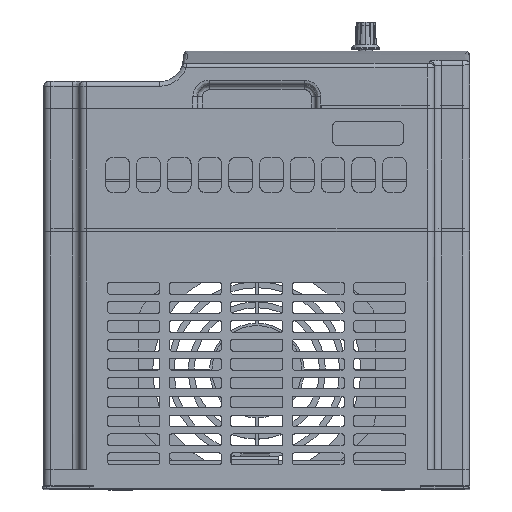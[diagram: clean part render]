
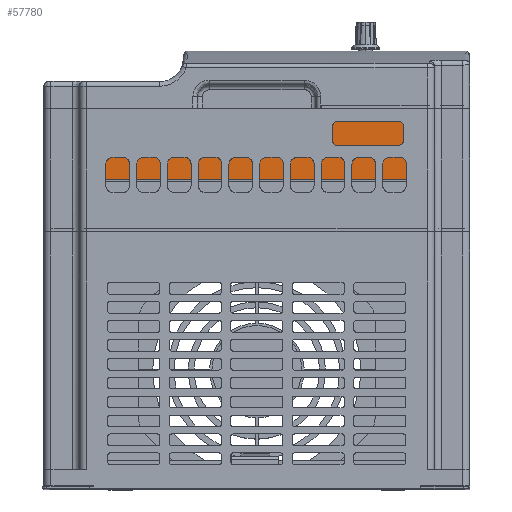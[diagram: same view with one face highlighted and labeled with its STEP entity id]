
A CAD part, top view. The second image highlights one B-rep face of the part: STEP entity #57780.
In plain terms, the highlighted planar face has unit normal (0, 0, 1) as drawn and (0, -1, 0) by its records, which use the part's own axes.
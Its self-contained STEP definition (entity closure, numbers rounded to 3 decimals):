
#286 = LINE ( 'NONE', #73441, #30852 ) ;
#2804 = LINE ( 'NONE', #48357, #51121 ) ;
#4620 = VERTEX_POINT ( 'NONE', #125846 ) ;
#6882 = CARTESIAN_POINT ( 'NONE',  ( -87.7, -93., -35. ) ) ;
#7943 = CARTESIAN_POINT ( 'NONE',  ( 67.7, -93., 0. ) ) ;
#8355 = VERTEX_POINT ( 'NONE', #114458 ) ;
#9711 = EDGE_CURVE ( 'NONE', #90899, #40594, #20927, .T. ) ;
#10014 = VECTOR ( 'NONE', #39461, 1000. ) ;
#16848 = CARTESIAN_POINT ( 'NONE',  ( -87.7, -93., -52. ) ) ;
#17011 = CARTESIAN_POINT ( 'NONE',  ( -67.7, -93., -20.7 ) ) ;
#20927 = LINE ( 'NONE', #117019, #45085 ) ;
#22088 = DIRECTION ( 'NONE',  ( 1., 0., 0. ) ) ;
#24411 = LINE ( 'NONE', #43715, #48614 ) ;
#27178 = DIRECTION ( 'NONE',  ( 0., 1., 0. ) ) ;
#29475 = LINE ( 'NONE', #7943, #105240 ) ;
#30852 = VECTOR ( 'NONE', #22088, 1000. ) ;
#33900 = EDGE_CURVE ( 'NONE', #34613, #4620, #74822, .T. ) ;
#34534 = DIRECTION ( 'NONE',  ( 0., 0., 1. ) ) ;
#34613 = VERTEX_POINT ( 'NONE', #117309 ) ;
#34995 = EDGE_CURVE ( 'NONE', #39351, #34613, #29475, .T. ) ;
#39351 = VERTEX_POINT ( 'NONE', #101437 ) ;
#39461 = DIRECTION ( 'NONE',  ( 0., 0., -1. ) ) ;
#40320 = AXIS2_PLACEMENT_3D ( 'NONE', #16848, #27178, #99287 ) ;
#40594 = VERTEX_POINT ( 'NONE', #6882 ) ;
#41625 = EDGE_CURVE ( 'NONE', #127031, #8355, #123909, .T. ) ;
#42356 = ORIENTED_EDGE ( 'NONE', *, *, #41625, .T. ) ;
#43715 = CARTESIAN_POINT ( 'NONE',  ( 67.7, -93., -20.7 ) ) ;
#45085 = VECTOR ( 'NONE', #34534, 1000. ) ;
#48357 = CARTESIAN_POINT ( 'NONE',  ( -87.7, -93., -51.5 ) ) ;
#48614 = VECTOR ( 'NONE', #85552, 1000. ) ;
#51121 = VECTOR ( 'NONE', #69054, 1000. ) ;
#53550 = ORIENTED_EDGE ( 'NONE', *, *, #121796, .F. ) ;
#53965 = EDGE_CURVE ( 'NONE', #4620, #69969, #92187, .T. ) ;
#57780 = ADVANCED_FACE ( 'NONE', ( #115770 ), #57797, .F. ) ;
#57797 = PLANE ( 'NONE',  #40320 ) ;
#67756 = CARTESIAN_POINT ( 'NONE',  ( -67.7, -93., 0. ) ) ;
#68231 = ORIENTED_EDGE ( 'NONE', *, *, #34995, .F. ) ;
#69054 = DIRECTION ( 'NONE',  ( -1., 0., 0. ) ) ;
#69969 = VERTEX_POINT ( 'NONE', #75931 ) ;
#70583 = EDGE_CURVE ( 'NONE', #69969, #90899, #2804, .T. ) ;
#70747 = CARTESIAN_POINT ( 'NONE',  ( -87.7, -93., -51.5 ) ) ;
#73441 = CARTESIAN_POINT ( 'NONE',  ( -87.7, -93., -35. ) ) ;
#74822 = LINE ( 'NONE', #89558, #126415 ) ;
#75931 = CARTESIAN_POINT ( 'NONE',  ( 87.7, -93., -51.5 ) ) ;
#79723 = ORIENTED_EDGE ( 'NONE', *, *, #121869, .F. ) ;
#79945 = DIRECTION ( 'NONE',  ( 0., 0., -1. ) ) ;
#80288 = EDGE_LOOP ( 'NONE', ( #107225, #93396, #93197, #68231, #79723, #42356, #53550, #87719 ) ) ;
#85552 = DIRECTION ( 'NONE',  ( 1., 0., 0. ) ) ;
#87719 = ORIENTED_EDGE ( 'NONE', *, *, #9711, .F. ) ;
#89558 = CARTESIAN_POINT ( 'NONE',  ( -87.7, -93., -35. ) ) ;
#90899 = VERTEX_POINT ( 'NONE', #70747 ) ;
#92187 = LINE ( 'NONE', #101202, #10014 ) ;
#93197 = ORIENTED_EDGE ( 'NONE', *, *, #33900, .F. ) ;
#93396 = ORIENTED_EDGE ( 'NONE', *, *, #53965, .F. ) ;
#96527 = VECTOR ( 'NONE', #119162, 1000. ) ;
#99287 = DIRECTION ( 'NONE',  ( 1., 0., 0. ) ) ;
#99999 = DIRECTION ( 'NONE',  ( 1., 0., 0. ) ) ;
#101202 = CARTESIAN_POINT ( 'NONE',  ( 87.7, -93., -52. ) ) ;
#101437 = CARTESIAN_POINT ( 'NONE',  ( 67.7, -93., -20.7 ) ) ;
#105240 = VECTOR ( 'NONE', #79945, 1000. ) ;
#107225 = ORIENTED_EDGE ( 'NONE', *, *, #70583, .F. ) ;
#114458 = CARTESIAN_POINT ( 'NONE',  ( -67.7, -93., -35. ) ) ;
#115770 = FACE_OUTER_BOUND ( 'NONE', #80288, .T. ) ;
#117019 = CARTESIAN_POINT ( 'NONE',  ( -87.7, -93., -52. ) ) ;
#117309 = CARTESIAN_POINT ( 'NONE',  ( 67.7, -93., -35. ) ) ;
#119162 = DIRECTION ( 'NONE',  ( 0., 0., -1. ) ) ;
#121796 = EDGE_CURVE ( 'NONE', #40594, #8355, #286, .T. ) ;
#121869 = EDGE_CURVE ( 'NONE', #127031, #39351, #24411, .T. ) ;
#123909 = LINE ( 'NONE', #67756, #96527 ) ;
#125846 = CARTESIAN_POINT ( 'NONE',  ( 87.7, -93., -35. ) ) ;
#126415 = VECTOR ( 'NONE', #99999, 1000. ) ;
#127031 = VERTEX_POINT ( 'NONE', #17011 ) ;
